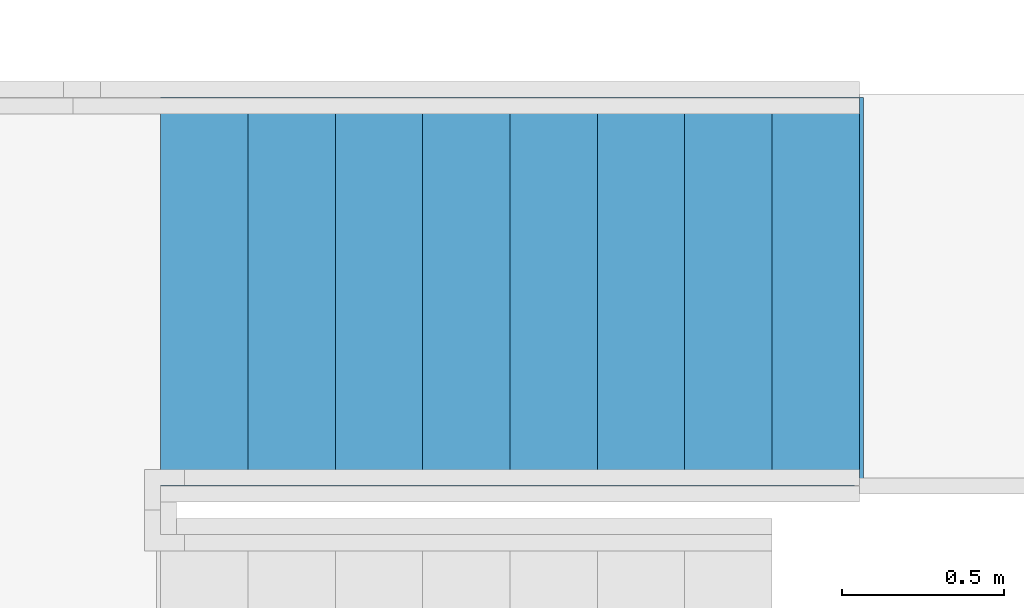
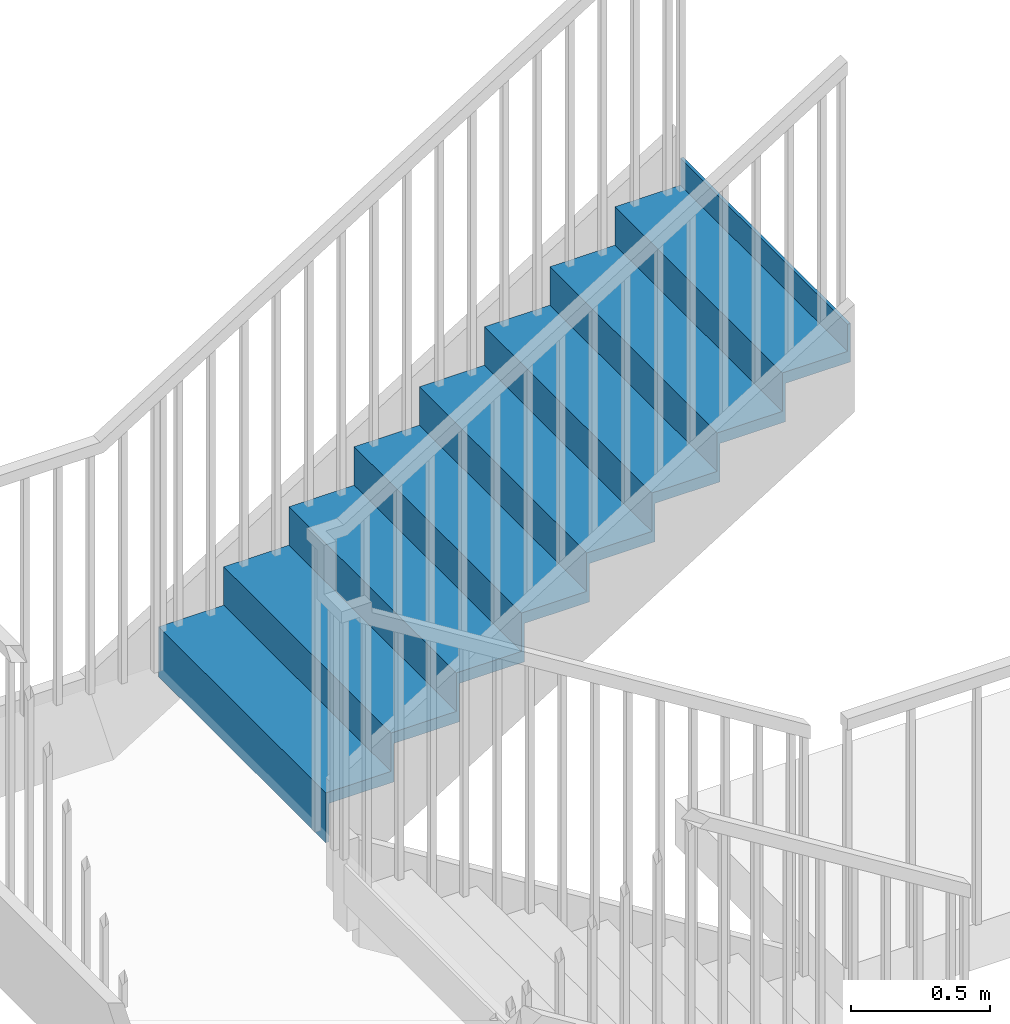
# One storey, part 8 of 14: 1 stair flight, 1 element without a shape of its own.
"""IFC2X3 building model written with IfcOpenShell, lengths in millimetres."""

from ifc_helpers import new_model, entity, si_unit, converted_unit, derived_unit, direction, frame, frame_2d, origin, origin_2d_with_axis, place, context, subcontext, project, spatial, rectangle, extrude, element, aggregate, save


model = new_model("IFC2X3")

# Units and contexts
model_context = context("Model", 3, precision=0.01, world=origin(), true_north=direction((4.05803320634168e-15, -1.0)))
body_context = subcontext(model_context, "Body", "Model", "MODEL_VIEW")
ifc_project = project(units=[si_unit("LENGTHUNIT", "METRE", prefix="MILLI"), si_unit("AREAUNIT", "SQUARE_METRE"), si_unit("VOLUMEUNIT", "CUBIC_METRE"), converted_unit("PLANEANGLEUNIT", "DEGREE", entity("IfcRatioMeasure", 0.0174532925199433), si_unit("PLANEANGLEUNIT", "RADIAN"), dimensions=[0, 0, 0, 0, 0, 0, 0]), si_unit("MASSUNIT", "GRAM", prefix="KILO"), derived_unit("MASSDENSITYUNIT", [(si_unit("MASSUNIT", "GRAM", prefix="KILO"), 1), (si_unit("LENGTHUNIT", "METRE"), -3)]), si_unit("TIMEUNIT", "SECOND"), si_unit("FREQUENCYUNIT", "HERTZ"), si_unit("THERMODYNAMICTEMPERATUREUNIT", "DEGREE_CELSIUS"), derived_unit("THERMALTRANSMITTANCEUNIT", [(si_unit("MASSUNIT", "GRAM", prefix="KILO"), 1), (si_unit("THERMODYNAMICTEMPERATUREUNIT", "KELVIN"), -1), (si_unit("TIMEUNIT", "SECOND"), -3)]), derived_unit("VOLUMETRICFLOWRATEUNIT", [(si_unit("LENGTHUNIT", "METRE"), 3), (si_unit("TIMEUNIT", "SECOND"), -1)]), si_unit("ELECTRICCURRENTUNIT", "AMPERE"), si_unit("ELECTRICVOLTAGEUNIT", "VOLT"), si_unit("POWERUNIT", "WATT"), si_unit("FORCEUNIT", "NEWTON", prefix="KILO"), si_unit("ILLUMINANCEUNIT", "LUX"), si_unit("LUMINOUSFLUXUNIT", "LUMEN"), si_unit("LUMINOUSINTENSITYUNIT", "CANDELA"), derived_unit("USERDEFINED", [(si_unit("MASSUNIT", "GRAM", prefix="KILO"), -1), (si_unit("LENGTHUNIT", "METRE"), -2), (si_unit("TIMEUNIT", "SECOND"), 3), (si_unit("LUMINOUSFLUXUNIT", "LUMEN"), 1)]), derived_unit("LINEARVELOCITYUNIT", [(si_unit("LENGTHUNIT", "METRE"), 1), (si_unit("TIMEUNIT", "SECOND"), -1)]), si_unit("PRESSUREUNIT", "PASCAL"), derived_unit("USERDEFINED", [(si_unit("LENGTHUNIT", "METRE"), -2), (si_unit("MASSUNIT", "GRAM", prefix="KILO"), 1), (si_unit("TIMEUNIT", "SECOND"), -2)])], contexts=[model_context])

# Site, building, storey
site_placement = place(None, frame((927466.849349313, 583801.882853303, 0.0), z_axis=(0.0, 0.0, 1.0), x_axis=(-1.0, 0.0, 0.0)))
site = spatial("IfcSite", under=ifc_project, at=site_placement, Name="Surface", CompositionType="ELEMENT")
building_placement = place(site_placement, origin())
building = spatial("IfcBuilding", under=site, at=building_placement, CompositionType="ELEMENT")
storey_placement = place(building_placement, frame((0.0, 0.0, 48170.0)))
storey = spatial("IfcBuildingStorey", under=building, at=storey_placement, Name="First floor", CompositionType="ELEMENT", Elevation=48170.0)

# Stair, stair flight
stair_placement = place(storey_placement, origin())
stair = element("IfcStair", 1, at=stair_placement, inside=storey, Name="Assembled Stair:Stair", ObjectType="Assembled Stair:170mm max riser 270mm going 1500", ShapeType="NOTDEFINED")
stair_flight_placement = place(stair_placement, origin())
stair_flight = element("IfcStairFlight", 2, at=stair_flight_placement, Name="Assembled Stair:Stair:634342 Run 1", ObjectType="Assembled Stair:170mm max riser 270mm going 1500", NumberOfRiser=9, NumberOfTreads=8, RiserHeight=0.551394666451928, TreadLength=0.885826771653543, context=body_context, shape_type="SweptSolid", body=[
    extrude(rectangle(XDim=1200.0, YDim=12.4999999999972, at=frame_2d((0.0, 4.33164615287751e-12), x_axis=(1.0, 0.0))), frame((-75814.8413038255, 12697.1010509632, 1294.52075467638), z_axis=(0.0, 0.0, 1.0), x_axis=(0.0, -1.0, 0.0)), (0.0, 0.0, 1.0), 168.065094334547),
    extrude(rectangle(XDim=270.000000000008, YDim=1200.0, at=frame_2d((-8.65441052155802e-12, 0.0), x_axis=(1.0, 0.0))), frame((-75943.5913038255, 12697.1010509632, 1462.58584901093)), (0.0, 0.0, 1.0), 49.9999999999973),
    extrude(rectangle(XDim=1200.0, YDim=12.4999999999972, at=origin_2d_with_axis()), frame((-76084.8413038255, 12697.1010509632, 1462.58584901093), z_axis=(0.0, 0.0, 1.0), x_axis=(0.0, -1.0, 0.0)), (0.0, 0.0, 1.0), 168.065094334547),
    extrude(rectangle(XDim=269.999999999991, YDim=1200.0, at=frame_2d((0.0, 1.08002495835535e-12), x_axis=(1.0, 0.0))), frame((-76213.5913038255, 12697.1010509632, 1630.65094334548)), (0.0, 0.0, 1.0), 49.9999999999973),
    extrude(rectangle(XDim=1200.0, YDim=12.4999999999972, at=origin_2d_with_axis()), frame((-76354.8413038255, 12697.1010509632, 1630.65094334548), z_axis=(0.0, 0.0, 1.0), x_axis=(0.0, -1.0, 0.0)), (0.0, 0.0, 1.0), 168.065094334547),
    extrude(rectangle(XDim=269.999999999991, YDim=1200.0, at=frame_2d((8.65441052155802e-12, 1.08002495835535e-12), x_axis=(1.0, 0.0))), frame((-76483.5913038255, 12697.1010509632, 1798.71603768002)), (0.0, 0.0, 1.0), 49.9999999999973),
    extrude(rectangle(XDim=1200.0, YDim=12.4999999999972, at=origin_2d_with_axis()), frame((-76624.8413038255, 12697.1010509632, 1798.71603768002), z_axis=(0.0, 0.0, 1.0), x_axis=(0.0, -1.0, 0.0)), (0.0, 0.0, 1.0), 168.065094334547),
    extrude(rectangle(XDim=269.999999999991, YDim=1200.0, at=frame_2d((0.0, 1.08002495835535e-12), x_axis=(1.0, 0.0))), frame((-76753.5913038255, 12697.1010509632, 1966.78113201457)), (0.0, 0.0, 1.0), 49.9999999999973),
    extrude(rectangle(XDim=1200.0, YDim=12.4999999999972, at=origin_2d_with_axis()), frame((-76894.8413038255, 12697.1010509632, 1966.78113201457), z_axis=(0.0, 0.0, 1.0), x_axis=(0.0, -1.0, 0.0)), (0.0, 0.0, 1.0), 168.065094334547),
    extrude(rectangle(XDim=269.999999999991, YDim=1200.0, at=frame_2d((0.0, 1.08002495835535e-12), x_axis=(1.0, 0.0))), frame((-77023.5913038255, 12697.1010509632, 2134.84622634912)), (0.0, 0.0, 1.0), 49.9999999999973),
    extrude(rectangle(XDim=1200.0, YDim=12.4999999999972, at=origin_2d_with_axis()), frame((-77164.8413038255, 12697.1010509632, 2134.84622634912), z_axis=(0.0, 0.0, 1.0), x_axis=(0.0, -1.0, 0.0)), (0.0, 0.0, 1.0), 168.065094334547),
    extrude(rectangle(XDim=269.999999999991, YDim=1200.0, at=frame_2d((0.0, 1.08002495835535e-12), x_axis=(1.0, 0.0))), frame((-77293.5913038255, 12697.1010509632, 2302.91132068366)), (0.0, 0.0, 1.0), 49.9999999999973),
    extrude(rectangle(XDim=1200.0, YDim=12.4999999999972, at=origin_2d_with_axis()), frame((-77434.8413038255, 12697.1010509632, 2302.91132068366), z_axis=(0.0, 0.0, 1.0), x_axis=(0.0, -1.0, 0.0)), (0.0, 0.0, 1.0), 168.065094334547),
    extrude(rectangle(XDim=269.999999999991, YDim=1200.0, at=frame_2d((0.0, 1.08002495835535e-12), x_axis=(1.0, 0.0))), frame((-77563.5913038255, 12697.1010509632, 2470.97641501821)), (0.0, 0.0, 1.0), 49.9999999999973),
    extrude(rectangle(XDim=1200.0, YDim=12.4999999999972, at=origin_2d_with_axis()), frame((-77704.8413038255, 12697.1010509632, 2470.97641501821), z_axis=(0.0, 0.0, 1.0), x_axis=(0.0, -1.0, 0.0)), (0.0, 0.0, 1.0), 168.065094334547),
    extrude(rectangle(XDim=1200.0, YDim=12.4999999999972, at=frame_2d((0.0, -4.33164615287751e-12), x_axis=(1.0, 0.0))), frame((-77974.8413038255, 12697.1010509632, 2639.04150935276), z_axis=(0.0, 0.0, 1.0), x_axis=(0.0, -1.0, 0.0)), (0.0, 0.0, 1.0), 168.065094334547),
    extrude(rectangle(XDim=269.999999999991, YDim=1200.0, at=frame_2d((8.65441052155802e-12, 1.08002495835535e-12), x_axis=(1.0, 0.0))), frame((-77833.5913038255, 12697.1010509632, 2639.04150935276)), (0.0, 0.0, 1.0), 49.9999999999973),
])
aggregate(stair, [stair_flight])

save(model, "model.ifc")
